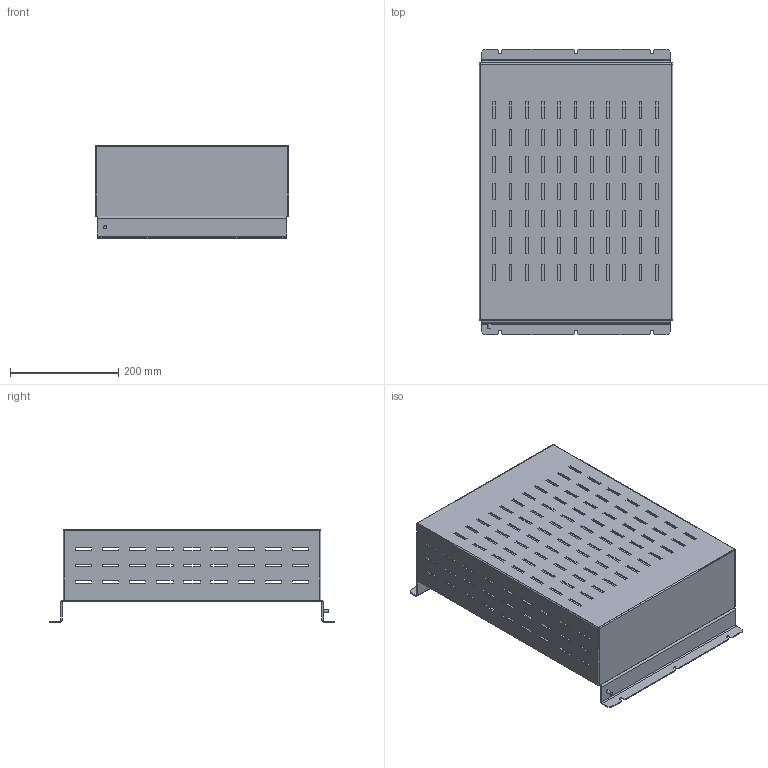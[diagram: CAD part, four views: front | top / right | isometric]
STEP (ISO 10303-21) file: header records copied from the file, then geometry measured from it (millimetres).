
FILE_DESCRIPTION(/* description */ (''),/* implementation_level */ '2;1');
FILE_NAME(/* name */ 'E:\Работа\Веда МК (Данфосс)\!Текущие задачи\2024.08.30 3D модели дросселей\Тормозные резисторы\STP\F4.stp',/* time_stamp */ '2024-09-04T07:49:59+04:00',/* author */ ('Александр (огранич)'),/* organization */ (''),/* preprocessor_version */ 'ST-DEVELOPER v18.1',/* originating_system */ 'Autodesk Inventor 2021',/* authorisation */ '');
FILE_SCHEMA (('AUTOMOTIVE_DESIGN { 1 0 10303 214 3 1 1 }'));
Length unit declared in the file: millimetre
Products named in the file (1): F1
Bounding box: 358 x 527 x 171 mm (x, y, z)
Volume: 1144154.8 mm3; surface area: 1166851.6 mm2
Topology: 1 solids, 1 shells, 628 faces, 1831 edges, 1204 vertices
Faces by surface type: plane 601, cylinder 23, sphere 4
Full cylindrical faces by diameter (mm): 6 x1
Entity records: 20872 total; most frequent: CARTESIAN_POINT 3664, ORIENTED_EDGE 3662, DIRECTION 3137, EDGE_CURVE 1831, LINE 1783, VECTOR 1783, VERTEX_POINT 1204, EDGE_LOOP 891
